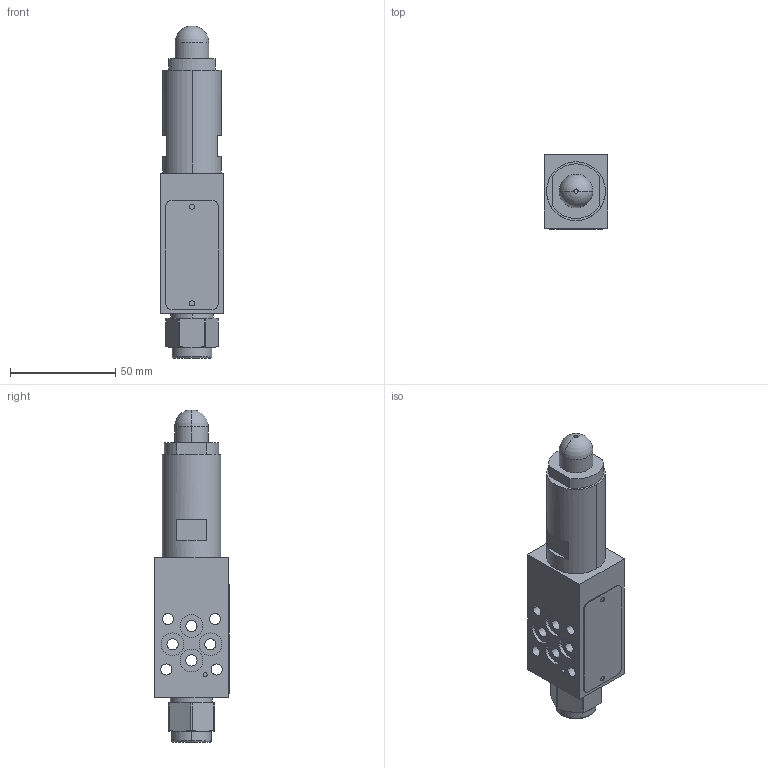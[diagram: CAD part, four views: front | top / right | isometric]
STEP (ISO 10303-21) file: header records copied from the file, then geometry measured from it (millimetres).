
FILE_DESCRIPTION((''),'2;1');
FILE_NAME('VRP2_04_AS_6_M_159171','2023-01-03T',('l.soukupova'),(''),'PRO/ENGINEER BY PARAMETRIC TECHNOLOGY CORPORATION, 2015440','PRO/ENGINEER BY PARAMETRIC TECHNOLOGY CORPORATION, 2015440','');
FILE_SCHEMA(('AUTOMOTIVE_DESIGN { 1 0 10303 214 1 1 1 1 }'));
Length unit declared in the file: millimetre
Products named in the file (1): VRP2_04_AS_6_M_159171
Bounding box: 30 x 35.5 x 158 mm (x, y, z)
Volume: 106167 mm3; surface area: 22930.2 mm2
Topology: 1 solids, 2 shells, 120 faces, 306 edges, 231 vertices
Faces by surface type: cylinder 60, plane 48, cone 6, sphere 4, torus 2
Entity records: 5652 total; most frequent: CARTESIAN_POINT 880, DIRECTION 670, ORIENTED_EDGE 560, PRESENTATION_STYLE_ASSIGNMENT 373, STYLED_ITEM 308, CURVE_STYLE 307, EDGE_CURVE 280, AXIS2_PLACEMENT_3D 259
